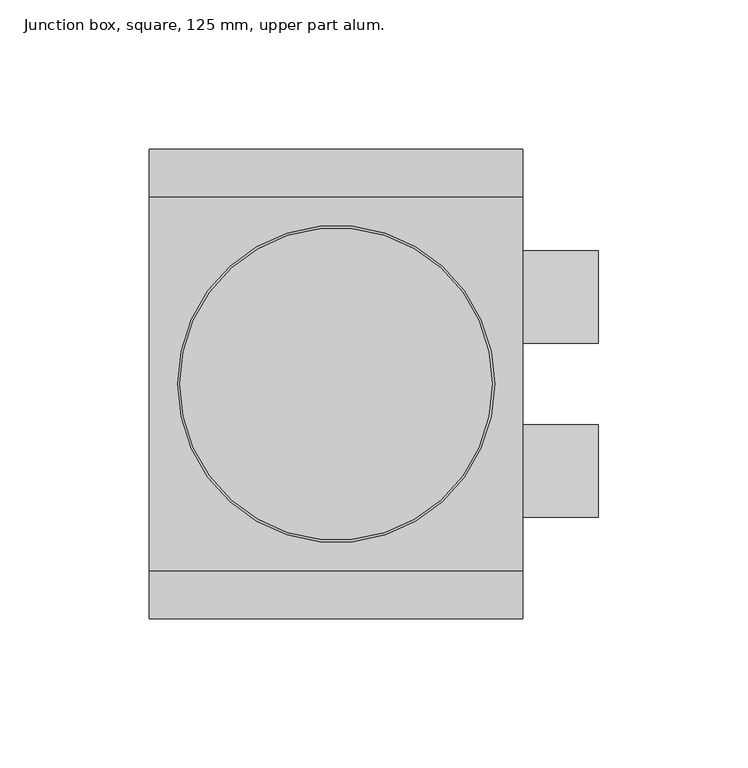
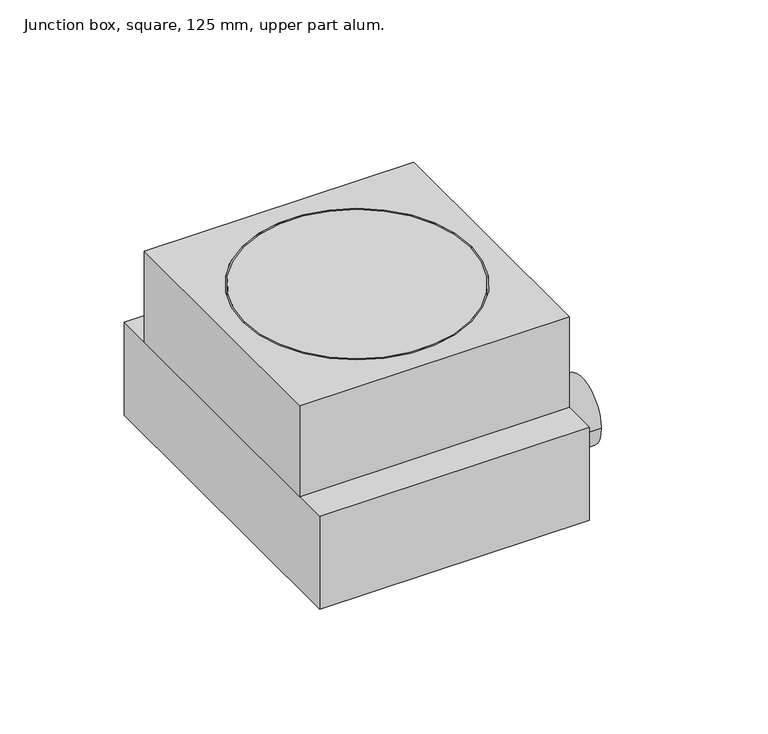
"""IFC4 building model written with IfcOpenShell, lengths in millimetres: proxy geometry, Electrical_Installation_Hager_VE-EE_Junction-box-square : Junction box, square, 125 mm, upper part alum.."""

import ifcopenshell
import ifcopenshell.guid

model = None  # the IFC model being written
_history = None  # IfcOwnerHistory: only IFC2X3 demands one
_inside = {}  # id of a spatial element -> (the spatial element, [elements in it])
_under = {}  # id of a project, library or spatial element -> (it, [spatial elements below it])
_declared = {}  # id of a project -> (the project, [libraries it declares])
_typed = {}  # id of a type object -> (the type object, [elements of that type])
_made_of = {}  # id of a material, layer set ... -> (it, [elements and type objects made of it])


def new_model(schema):
    """Start an empty IFC model of exactly this schema.

    Asked for "IFC4X3", IfcOpenShell would pick the latest addendum, in which some entities
    have other attributes; the version numbers below select the first issue.
    IFC2X3 requires an IfcOwnerHistory on every rooted entity: one is made here for all.
    """
    global model, _history
    if schema == "IFC4X3":
        model = ifcopenshell.file(schema_version=(4, 3, 0, 0))
    else:
        model = ifcopenshell.file(schema=schema)
    _inside.clear()
    _under.clear()
    _declared.clear()
    _typed.clear()
    _made_of.clear()
    _history = None
    if model.schema == "IFC2X3":
        org = make("IfcOrganization", Name="unknown")
        user = make(
            "IfcPersonAndOrganization",
            ThePerson=make("IfcPerson", FamilyName="unknown"),
            TheOrganization=org,
        )
        app = make(
            "IfcApplication",
            ApplicationDeveloper=org,
            Version="unknown",
            ApplicationFullName="unknown",
            ApplicationIdentifier="unknown",
        )
        _history = make(
            "IfcOwnerHistory",
            OwningUser=user,
            OwningApplication=app,
            ChangeAction="ADDED",
            CreationDate=0,
        )
    return model


def make(cls, **values):
    """One entity of the class cls with the attributes given. An attribute that is None is left unset."""
    return model.create_entity(
        cls, **{name: value for name, value in values.items() if value is not None}
    )


def rooted(cls, **values):
    """An entity with a GlobalId (a new one), such as an element, a storey or a relation."""
    return make(cls, GlobalId=ifcopenshell.guid.new(), OwnerHistory=_history, **values)


def si_unit(unit_type, name, prefix=None):
    """IfcSIUnit, for example si_unit("LENGTHUNIT", "METRE", prefix="MILLI")."""
    return make("IfcSIUnit", UnitType=unit_type, Prefix=prefix, Name=name)


def assignment(units):
    """IfcUnitAssignment: the units of a project."""
    return None if units is None else make("IfcUnitAssignment", Units=units)


def point(xyz):
    """IfcCartesianPoint."""
    return None if xyz is None else make("IfcCartesianPoint", Coordinates=xyz)


def direction(xyz):
    """IfcDirection."""
    return None if xyz is None else make("IfcDirection", DirectionRatios=xyz)


def frame(location, z_axis=None, x_axis=None):
    """IfcAxis2Placement3D, a coordinate frame: its origin and axes. An axis left out is left unset."""
    return make(
        "IfcAxis2Placement3D",
        Location=point(location),
        Axis=direction(z_axis),
        RefDirection=direction(x_axis),
    )


def frame_2d(location, x_axis=None):
    """IfcAxis2Placement2D, a coordinate frame in the plane: its origin and x axis."""
    return make(
        "IfcAxis2Placement2D", Location=point(location), RefDirection=direction(x_axis)
    )


def origin():
    """The frame at (0, 0, 0) with its axes left unset."""
    return frame((0.0, 0.0, 0.0))


def origin_2d():
    """The frame at (0, 0) in the plane with its x axis left unset."""
    return frame_2d((0.0, 0.0))


def place(relative_to, where):
    """IfcLocalPlacement: puts the frame where relative to a parent placement (None: the world)."""
    return make(
        "IfcLocalPlacement", PlacementRelTo=relative_to, RelativePlacement=where
    )


def context(
    kind, dimensions, precision=None, world=None, true_north=None, identifier=None
):
    """IfcGeometricRepresentationContext, for example the 3D "Model" context."""
    return make(
        "IfcGeometricRepresentationContext",
        ContextIdentifier=identifier,
        ContextType=kind,
        CoordinateSpaceDimension=dimensions,
        Precision=precision,
        WorldCoordinateSystem=world,
        TrueNorth=true_north,
    )


def project(units=None, contexts=None):
    """IfcProject with its units and contexts."""
    return rooted(
        "IfcProject",
        Name="project",
        RepresentationContexts=contexts,
        UnitsInContext=assignment(units),
    )


def spatial(cls, under=None, at=None, **own):
    """A site, building, storey or space (cls), placed at a placement, below another one or the project."""
    s = rooted(cls, ObjectPlacement=at, **own)
    if under is not None:
        _under.setdefault(under.id(), (under, []))[1].append(s)
    return s


def polyline(points):
    """IfcPolyline through the points."""
    return make("IfcPolyline", Points=[point(p) for p in points])


def circle_curve(where, radius):
    """IfcCircle in the frame where."""
    return make("IfcCircle", Position=where, Radius=radius)


def trimmed(basis, trim1, trim2, sense, master):
    """IfcTrimmedCurve: the piece of a basis curve between two trims."""
    return make(
        "IfcTrimmedCurve",
        BasisCurve=basis,
        Trim1=trim1,
        Trim2=trim2,
        SenseAgreement=sense,
        MasterRepresentation=master,
    )


def segment(curve, same_sense, transition):
    """IfcCompositeCurveSegment."""
    return make(
        "IfcCompositeCurveSegment",
        Transition=transition,
        SameSense=same_sense,
        ParentCurve=curve,
    )


def composite_curve(segments, self_intersect=None):
    """IfcCompositeCurve: segments joined end to end."""
    return make("IfcCompositeCurve", Segments=segments, SelfIntersect=self_intersect)


def outline(outer, holes=None, kind="AREA"):
    """IfcArbitraryClosedProfileDef: a profile drawn as a closed curve; with holes, ...WithVoids."""
    if holes is None:
        return make("IfcArbitraryClosedProfileDef", ProfileType=kind, OuterCurve=outer)
    return make(
        "IfcArbitraryProfileDefWithVoids",
        ProfileType=kind,
        OuterCurve=outer,
        InnerCurves=holes,
    )


def extrude(swept, where, along, depth):
    """IfcExtrudedAreaSolid: the profile swept, set in the frame where, extruded along a direction by depth."""
    return make(
        "IfcExtrudedAreaSolid",
        SweptArea=swept,
        Position=where,
        ExtrudedDirection=direction(along),
        Depth=depth,
    )


def shape(context_of_items, identifier, shape_type, items):
    """IfcShapeRepresentation: the items that make up one representation, for example the "Body"."""
    return make(
        "IfcShapeRepresentation",
        ContextOfItems=context_of_items,
        RepresentationIdentifier=identifier,
        RepresentationType=shape_type,
        Items=items,
    )


def source(mapping_origin, context_of_items, identifier, shape_type, items):
    """IfcRepresentationMap: a shape defined once, which mapped items show again and again."""
    return make(
        "IfcRepresentationMap",
        MappingOrigin=mapping_origin,
        MappedRepresentation=shape(context_of_items, identifier, shape_type, items),
    )


def transform(
    local_origin,
    x_axis=None,
    y_axis=None,
    z_axis=None,
    scale=None,
    scale2=None,
    scale3=None,
    uniform=True,
):
    """IfcCartesianTransformationOperator3D, or its non-uniform kind. x_axis, y_axis, z_axis: its Axis1, 2, 3."""
    if uniform:
        return make(
            "IfcCartesianTransformationOperator3D",
            Axis1=direction(x_axis),
            Axis2=direction(y_axis),
            LocalOrigin=point(local_origin),
            Scale=scale,
            Axis3=direction(z_axis),
        )
    return make(
        "IfcCartesianTransformationOperator3DnonUniform",
        Axis1=direction(x_axis),
        Axis2=direction(y_axis),
        LocalOrigin=point(local_origin),
        Scale=scale,
        Axis3=direction(z_axis),
        Scale2=scale2,
        Scale3=scale3,
    )


def mapped(mapping_source, mapping_target):
    """IfcMappedItem: shows the shape of a source again, moved by a transform."""
    return make(
        "IfcMappedItem", MappingSource=mapping_source, MappingTarget=mapping_target
    )


def made_of(thing, what):
    """Note that an element or type object is made of a material, layer set ...; save() writes the relation."""
    if what is not None:
        _made_of.setdefault(what.id(), (what, []))[1].append(thing)
    return thing


def element(
    cls,
    number,
    at=None,
    inside=None,
    cuts=None,
    type_object=None,
    material=None,
    context=None,
    identifier="Body",
    shape_type=None,
    held_by="IfcProductDefinitionShape",
    body=None,
    shapes=None,
    **own,
):
    """One element of the class cls, such as IfcWall. Its Tag is "e" and its number.

    at: its placement. inside: the storey or other place that contains it. cuts: it is an
    opening in that element (IfcRelVoidsElement). A single representation is given by context,
    identifier, shape_type and body (its items); several are given by shapes. held_by: the class
    of the entity that holds the representations. save() writes the other relations.
    """
    e = rooted(cls, Tag="e%d" % number, ObjectPlacement=at, **own)
    if body is not None:
        shapes = [shape(context, identifier, shape_type, body)]
    if shapes is not None:
        e.Representation = make(held_by, Representations=shapes)
    if inside is not None:
        _inside.setdefault(inside.id(), (inside, []))[1].append(e)
    if cuts is not None:
        rooted(
            "IfcRelVoidsElement", RelatingBuildingElement=cuts, RelatedOpeningElement=e
        )
    if type_object is not None:
        _typed.setdefault(type_object.id(), (type_object, []))[1].append(e)
    return made_of(e, material)


def aggregate(whole, parts):
    """IfcRelAggregates: a whole, such as a stair, and the parts it consists of."""
    return rooted("IfcRelAggregates", RelatingObject=whole, RelatedObjects=parts)


def save(model, path):
    """Write the relations noted so far, then the file.

    IfcRelAggregates (storeys below a building ...), IfcRelContainedInSpatialStructure (elements
    in a storey), IfcRelDefinesByType, IfcRelAssociatesMaterial and IfcRelDeclares: one each for
    every whole, place, type object, material and project.
    """
    for whole, parts in _under.values():
        aggregate(whole, parts)
    for where, things in _inside.values():
        rooted(
            "IfcRelContainedInSpatialStructure",
            RelatedElements=things,
            RelatingStructure=where,
        )
    for kind, things in _typed.values():
        rooted("IfcRelDefinesByType", RelatedObjects=things, RelatingType=kind)
    for what, things in _made_of.values():
        rooted("IfcRelAssociatesMaterial", RelatedObjects=things, RelatingMaterial=what)
    for by, libraries in _declared.values():
        rooted("IfcRelDeclares", RelatingContext=by, RelatedDefinitions=libraries)
    model.write(path)


def junction_box_square_125_mm_upper_part_alum_607a975c(model_context):
    return source(origin(), model_context, "Body", "SweptSolid", [
        extrude(outline(composite_curve([segment(trimmed(circle_curve(origin_2d(), 45.0), [point((-45.0, 0.0))], [point((45.0, 0.0))], False, "CARTESIAN"), True, "CONTINUOUS"), segment(trimmed(circle_curve(origin_2d(), 45.0), [point((45.0, 0.0))], [point((-45.0, 0.0))], False, "CARTESIAN"), True, "CONTINUOUS")], self_intersect=False)), frame((0.0, 0.0, -44.4446396), z_axis=(0.0, 0.0, 1.0), x_axis=(1.0, 0.0, 0.0)), (0.0, 0.0, 1.0), 22.2223198),
        extrude(outline(composite_curve([segment(trimmed(circle_curve(frame_2d((-29.0988767, -74.4100046)), 15.5), [point((-44.5988767, -74.4100046))], [point((-13.5988767, -74.4100046))], False, "CARTESIAN"), True, "CONTINUOUS"), segment(trimmed(circle_curve(frame_2d((-29.0988767, -74.4100046)), 15.5), [point((-13.5988767, -74.4100046))], [point((-44.5988767, -74.4100046))], False, "CARTESIAN"), True, "CONTINUOUS")], self_intersect=False)), frame((62.5, 0.0, 0.0), z_axis=(1.0, 0.0, 0.0), x_axis=(0.0, 1.0, 0.0)), (0.0, 0.0, 1.0), 25.2),
        extrude(outline(composite_curve([segment(trimmed(circle_curve(frame_2d((29.0988767, -74.4100046)), 15.5), [point((13.5988767, -74.4100046))], [point((44.5988767, -74.4100046))], False, "CARTESIAN"), True, "CONTINUOUS"), segment(trimmed(circle_curve(frame_2d((29.0988767, -74.4100046)), 15.5), [point((44.5988767, -74.4100046))], [point((13.5988767, -74.4100046))], False, "CARTESIAN"), True, "CONTINUOUS")], self_intersect=False)), frame((62.5, 0.0, 0.0), z_axis=(1.0, 0.0, 0.0), x_axis=(0.0, 1.0, 0.0)), (0.0, 0.0, 1.0), 25.2),
        extrude(outline(composite_curve([segment(trimmed(circle_curve(origin_2d(), 52.2738495), [point((-52.2738495, 0.0))], [point((52.2738495, 0.0))], False, "CARTESIAN"), True, "CONTINUOUS"), segment(trimmed(circle_curve(origin_2d(), 52.2738495), [point((52.2738495, 0.0))], [point((-52.2738495, 0.0))], False, "CARTESIAN"), True, "CONTINUOUS")], self_intersect=False)), frame((0.0, 0.0, -44.4446396), z_axis=(0.0, 0.0, 1.0), x_axis=(1.0, 0.0, 0.0)), (0.0, 0.0, 1.0), 44.4446396),
        extrude(outline(polyline([(62.5, 62.5), (62.5, -62.5), (-62.5, -62.5), (-62.5, 62.5), (62.5, 62.5)]), holes=[composite_curve([segment(trimmed(circle_curve(origin_2d(), 53.0323187), [point((-53.0323187, 0.0))], [point((53.0323187, 0.0))], True, "CARTESIAN"), True, "CONTINUOUS"), segment(trimmed(circle_curve(origin_2d(), 53.0323187), [point((53.0323187, 0.0))], [point((-53.0323187, 0.0))], True, "CARTESIAN"), True, "CONTINUOUS")], self_intersect=False)]), frame((0.0, 0.0, -44.4446396), z_axis=(0.0, 0.0, 1.0), x_axis=(1.0, 0.0, 0.0)), (0.0, 0.0, 1.0), 44.4446396),
        extrude(outline(polyline([(62.5, 78.5), (62.5, -78.5), (-62.5, -78.5), (-62.5, 78.5), (62.5, 78.5)])), frame((0.0, 0.0, -90.0), z_axis=(0.0, 0.0, 1.0), x_axis=(1.0, 0.0, 0.0)), (0.0, 0.0, 1.0), 45.5553604),
    ])


if __name__ == "__main__":
    model = new_model("IFC4")
    model_context = context("Model", 3, world=origin())
    ifc_project = project(units=[si_unit("LENGTHUNIT", "METRE", prefix="MILLI")], contexts=[model_context])
    site = spatial("IfcSite", under=ifc_project)
    building = spatial("IfcBuilding", under=site)
    placement = place(None, origin())
    junction_box_square_125_mm_upper_part_alum_shape = junction_box_square_125_mm_upper_part_alum_607a975c(model_context)
    element("IfcBuildingElementProxy", 1, Name="Electrical_Installation_Hager_VE-EE_Junction-box-square : Junction box, square, 125 mm, upper part alum.", ObjectType="Electrical_Installation_Hager_VE-EE_Junction-box-square : Junction box, square, 125 mm, upper part alum.", at=placement, inside=building, context=model_context, shape_type="MappedRepresentation", body=[
        mapped(junction_box_square_125_mm_upper_part_alum_shape, transform((0.0, 0.0, 0.0), x_axis=(1.0, 0.0, 0.0), y_axis=(0.0, 1.0, 0.0), z_axis=(0.0, 0.0, 1.0))),
    ])
    save(model, "model.ifc")
